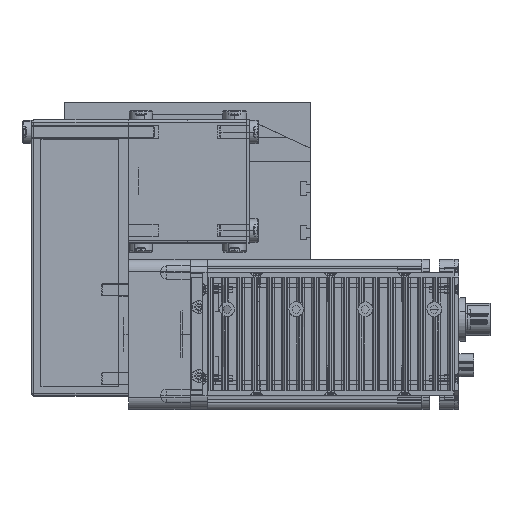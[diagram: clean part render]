
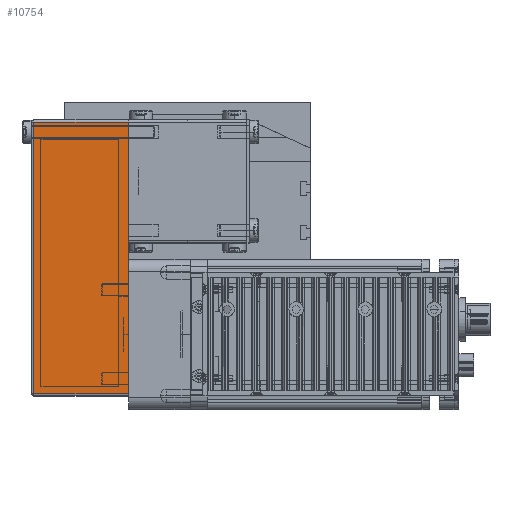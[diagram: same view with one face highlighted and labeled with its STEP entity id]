
A CAD part, top view. The second image highlights one B-rep face of the part: STEP entity #10754.
In plain terms, the highlighted planar face has unit normal (0, 0, 1) as drawn and (0, 1, 0) by its records, which use the part's own axes.
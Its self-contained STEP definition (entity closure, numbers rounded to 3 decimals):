
#10594 = VERTEX_POINT ( 'NONE', #37851 ) ;
#10601 = EDGE_CURVE ( 'NONE', #10594, #10624, #37849, .T. ) ;
#10624 = VERTEX_POINT ( 'NONE', #37883 ) ;
#10638 = VERTEX_POINT ( 'NONE', #37880 ) ;
#10647 = EDGE_CURVE ( 'NONE', #10638, #10660, #37869, .T. ) ;
#10660 = VERTEX_POINT ( 'NONE', #37924 ) ;
#10754 = ADVANCED_FACE ( 'NONE', ( #38018 ), #38024, .F. ) ;
#10755 = EDGE_CURVE ( 'NONE', #10624, #10638, #38013, .T. ) ;
#10760 = ORIENTED_EDGE ( 'NONE', *, *, #10601, .F. ) ;
#10767 = ORIENTED_EDGE ( 'NONE', *, *, #10780, .T. ) ;
#10780 = EDGE_CURVE ( 'NONE', #10594, #10660, #38005, .T. ) ;
#10787 = ORIENTED_EDGE ( 'NONE', *, *, #10755, .F. ) ;
#10793 = ORIENTED_EDGE ( 'NONE', *, *, #10647, .F. ) ;
#10796 = EDGE_LOOP ( 'NONE', ( #10793, #10787, #10760, #10767 ) ) ;
#37840 = DIRECTION ( 'NONE',  ( 0., 0., 1. ) ) ;
#37841 = VECTOR ( 'NONE', #37840, 1000. ) ;
#37842 = CARTESIAN_POINT ( 'NONE',  ( 61., 25., 39.5 ) ) ;
#37849 = LINE ( 'NONE', #37842, #37841 ) ;
#37851 = CARTESIAN_POINT ( 'NONE',  ( 61., 25., 0. ) ) ;
#37869 = LINE ( 'NONE', #37923, #37922 ) ;
#37880 = CARTESIAN_POINT ( 'NONE',  ( -49., 25., 38.5 ) ) ;
#37883 = CARTESIAN_POINT ( 'NONE',  ( 61., 25., 38.5 ) ) ;
#37921 = DIRECTION ( 'NONE',  ( 0., 0., -1. ) ) ;
#37922 = VECTOR ( 'NONE', #37921, 1000. ) ;
#37923 = CARTESIAN_POINT ( 'NONE',  ( -49., 25., 39.5 ) ) ;
#37924 = CARTESIAN_POINT ( 'NONE',  ( -49., 25., 0. ) ) ;
#37957 = AXIS2_PLACEMENT_3D ( 'NONE', #38008, #38007, #38006 ) ;
#37988 = VECTOR ( 'NONE', #38055, 1000. ) ;
#37993 = CARTESIAN_POINT ( 'NONE',  ( -50., 25., 0. ) ) ;
#38002 = DIRECTION ( 'NONE',  ( -1., 0., 0. ) ) ;
#38003 = VECTOR ( 'NONE', #38002, 1000. ) ;
#38004 = CARTESIAN_POINT ( 'NONE',  ( -50., 25., 38.5 ) ) ;
#38005 = LINE ( 'NONE', #37993, #37988 ) ;
#38006 = DIRECTION ( 'NONE',  ( 0., 0., -1. ) ) ;
#38007 = DIRECTION ( 'NONE',  ( 0., -1., 0. ) ) ;
#38008 = CARTESIAN_POINT ( 'NONE',  ( -50., 25., 39.5 ) ) ;
#38013 = LINE ( 'NONE', #38004, #38003 ) ;
#38018 = FACE_OUTER_BOUND ( 'NONE', #10796, .T. ) ;
#38024 = PLANE ( 'NONE',  #37957 ) ;
#38055 = DIRECTION ( 'NONE',  ( -1., 0., 0. ) ) ;
